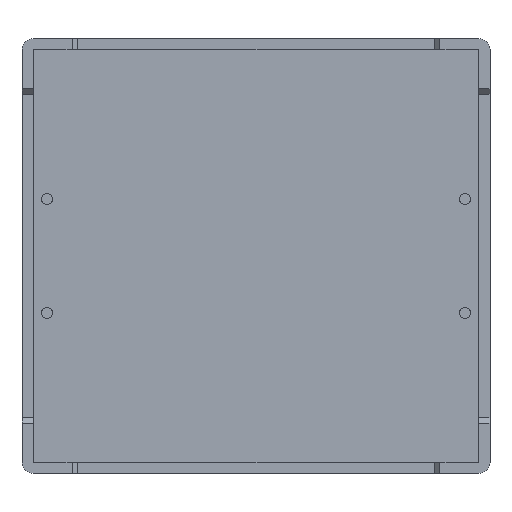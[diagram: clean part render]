
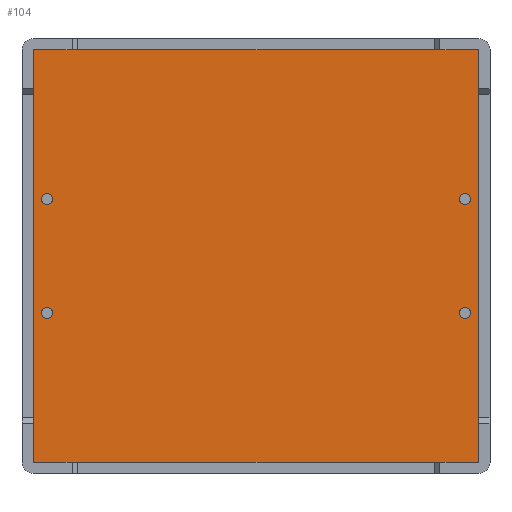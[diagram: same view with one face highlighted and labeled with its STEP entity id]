
A CAD part, front view. The second image highlights one B-rep face of the part: STEP entity #104.
In plain terms, the highlighted planar face has unit normal (0, -1, 0).
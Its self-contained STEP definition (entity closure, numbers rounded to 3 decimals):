
#3 = AXIS2_PLACEMENT_3D ( 'NONE', #2220, #2161, #1976 ) ;
#13 = ORIENTED_EDGE ( 'NONE', *, *, #305, .T. ) ;
#42 = VERTEX_POINT ( 'NONE', #3072 ) ;
#75 = EDGE_CURVE ( 'NONE', #2878, #2764, #550, .T. ) ;
#79 = EDGE_CURVE ( 'NONE', #3062, #4215, #587, .T. ) ;
#104 = ADVANCED_FACE ( 'NONE', ( #414, #384, #375, #464, #360 ), #1637, .T. ) ;
#110 = EDGE_CURVE ( 'NONE', #3020, #2753, #333, .T. ) ;
#134 = AXIS2_PLACEMENT_3D ( 'NONE', #358, #4489, #4467 ) ;
#172 = EDGE_CURVE ( 'NONE', #3124, #2938, #4348, .T. ) ;
#207 = EDGE_CURVE ( 'NONE', #3346, #4298, #3539, .T. ) ;
#229 = EDGE_CURVE ( 'NONE', #3323, #2331, #2954, .T. ) ;
#235 = CARTESIAN_POINT ( 'NONE',  ( -18.75, 1., 5.6 ) ) ;
#249 = EDGE_CURVE ( 'NONE', #4298, #3346, #2449, .T. ) ;
#262 = EDGE_CURVE ( 'NONE', #4491, #4380, #2226, .T. ) ;
#270 = EDGE_CURVE ( 'NONE', #4215, #3062, #2046, .T. ) ;
#285 = EDGE_CURVE ( 'NONE', #42, #4198, #1949, .T. ) ;
#286 = EDGE_CURVE ( 'NONE', #2331, #3124, #1907, .T. ) ;
#293 = EDGE_CURVE ( 'NONE', #2938, #3020, #1801, .T. ) ;
#295 = EDGE_CURVE ( 'NONE', #2753, #2878, #1747, .T. ) ;
#305 = EDGE_CURVE ( 'NONE', #2764, #3323, #1577, .T. ) ;
#333 = LINE ( 'NONE', #1606, #344 ) ;
#344 = VECTOR ( 'NONE', #1771, 1000. ) ;
#358 = CARTESIAN_POINT ( 'NONE',  ( 18.75, 1., 5.1 ) ) ;
#360 = FACE_OUTER_BOUND ( 'NONE', #1324, .T. ) ;
#375 = FACE_BOUND ( 'NONE', #1484, .T. ) ;
#384 = FACE_BOUND ( 'NONE', #1422, .T. ) ;
#393 = CARTESIAN_POINT ( 'NONE',  ( 18.75, 1., -5.1 ) ) ;
#414 = FACE_BOUND ( 'NONE', #1451, .T. ) ;
#464 = FACE_BOUND ( 'NONE', #1480, .T. ) ;
#471 = DIRECTION ( 'NONE',  ( 1., 0., 0. ) ) ;
#509 = CARTESIAN_POINT ( 'NONE',  ( 18.75, 1., 4.6 ) ) ;
#542 = DIRECTION ( 'NONE',  ( 0., 0., -1. ) ) ;
#546 = CARTESIAN_POINT ( 'NONE',  ( -20., 1., -18.5 ) ) ;
#550 = LINE ( 'NONE', #2085, #607 ) ;
#559 = CARTESIAN_POINT ( 'NONE',  ( 20., 1., 18.4 ) ) ;
#580 = AXIS2_PLACEMENT_3D ( 'NONE', #1589, #1614, #1368 ) ;
#587 = CIRCLE ( 'NONE', #3410, 0.5 ) ;
#607 = VECTOR ( 'NONE', #2080, 1000. ) ;
#609 = DIRECTION ( 'NONE',  ( 0., -1., 0. ) ) ;
#625 = CIRCLE ( 'NONE', #3192, 0.5 ) ;
#663 = CARTESIAN_POINT ( 'NONE',  ( 18.75, 1., 5.6 ) ) ;
#777 = CARTESIAN_POINT ( 'NONE',  ( -19.9, 1., -18.5 ) ) ;
#784 = DIRECTION ( 'NONE',  ( 0., 0., -1. ) ) ;
#796 = CARTESIAN_POINT ( 'NONE',  ( -18.75, 1., 5.1 ) ) ;
#879 = EDGE_CURVE ( 'NONE', #4198, #42, #4074, .T. ) ;
#918 = DIRECTION ( 'NONE',  ( 0., 0., -1. ) ) ;
#959 = AXIS2_PLACEMENT_3D ( 'NONE', #1639, #1621, #1590 ) ;
#1044 = CARTESIAN_POINT ( 'NONE',  ( -19.9, 1., 18.5 ) ) ;
#1203 = DIRECTION ( 'NONE',  ( 0., 0., -1. ) ) ;
#1226 = DIRECTION ( 'NONE',  ( 0., -1., 0. ) ) ;
#1245 = CARTESIAN_POINT ( 'NONE',  ( -18.75, 1., -5.1 ) ) ;
#1324 = EDGE_LOOP ( 'NONE', ( #4410, #4422, #4429, #4433, #4441, #4451, #4481, #13 ) ) ;
#1343 = AXIS2_PLACEMENT_3D ( 'NONE', #2946, #1500, #918 ) ;
#1368 = DIRECTION ( 'NONE',  ( 0., 0., -1. ) ) ;
#1402 = AXIS2_PLACEMENT_3D ( 'NONE', #3946, #3940, #3902 ) ;
#1422 = EDGE_LOOP ( 'NONE', ( #4320, #4334 ) ) ;
#1451 = EDGE_LOOP ( 'NONE', ( #4282, #4287 ) ) ;
#1480 = EDGE_LOOP ( 'NONE', ( #4391, #4404 ) ) ;
#1484 = EDGE_LOOP ( 'NONE', ( #4344, #4373 ) ) ;
#1500 = DIRECTION ( 'NONE',  ( 0., -1., 0. ) ) ;
#1577 = CIRCLE ( 'NONE', #3240, 0.1 ) ;
#1589 = CARTESIAN_POINT ( 'NONE',  ( -19.9, 1., -18.4 ) ) ;
#1590 = DIRECTION ( 'NONE',  ( 0., 0., -1. ) ) ;
#1606 = CARTESIAN_POINT ( 'NONE',  ( 20., 1., -18.5 ) ) ;
#1614 = DIRECTION ( 'NONE',  ( 0., -1., 0. ) ) ;
#1620 = DIRECTION ( 'NONE',  ( 0., 0., -1. ) ) ;
#1621 = DIRECTION ( 'NONE',  ( 0., -1., 0. ) ) ;
#1633 = CARTESIAN_POINT ( 'NONE',  ( 0., 1., 0. ) ) ;
#1637 = PLANE ( 'NONE',  #2212 ) ;
#1639 = CARTESIAN_POINT ( 'NONE',  ( 18.75, 1., -5.1 ) ) ;
#1722 = DIRECTION ( 'NONE',  ( 0., -1., 0. ) ) ;
#1747 = CIRCLE ( 'NONE', #2083, 0.1 ) ;
#1771 = DIRECTION ( 'NONE',  ( 0., 0., 1. ) ) ;
#1801 = CIRCLE ( 'NONE', #1402, 0.1 ) ;
#1907 = CIRCLE ( 'NONE', #580, 0.1 ) ;
#1949 = CIRCLE ( 'NONE', #3, 0.5 ) ;
#1976 = DIRECTION ( 'NONE',  ( 0., 0., -1. ) ) ;
#1987 = DIRECTION ( 'NONE',  ( 0., 0., -1. ) ) ;
#1995 = DIRECTION ( 'NONE',  ( 0., -1., 0. ) ) ;
#2005 = CARTESIAN_POINT ( 'NONE',  ( -18.75, 1., 5.1 ) ) ;
#2046 = CIRCLE ( 'NONE', #3098, 0.5 ) ;
#2080 = DIRECTION ( 'NONE',  ( -1., 0., 0. ) ) ;
#2083 = AXIS2_PLACEMENT_3D ( 'NONE', #3773, #3760, #3682 ) ;
#2085 = CARTESIAN_POINT ( 'NONE',  ( 20., 1., 18.5 ) ) ;
#2152 = CARTESIAN_POINT ( 'NONE',  ( 19.9, 1., 18.5 ) ) ;
#2161 = DIRECTION ( 'NONE',  ( 0., -1., 0. ) ) ;
#2167 = CARTESIAN_POINT ( 'NONE',  ( 19.9, 1., -18.5 ) ) ;
#2212 = AXIS2_PLACEMENT_3D ( 'NONE', #1633, #1722, #1620 ) ;
#2220 = CARTESIAN_POINT ( 'NONE',  ( -18.75, 1., -5.1 ) ) ;
#2226 = CIRCLE ( 'NONE', #959, 0.5 ) ;
#2280 = CARTESIAN_POINT ( 'NONE',  ( 18.75, 1., -4.6 ) ) ;
#2331 = VERTEX_POINT ( 'NONE', #3918 ) ;
#2449 = CIRCLE ( 'NONE', #134, 0.5 ) ;
#2721 = CARTESIAN_POINT ( 'NONE',  ( -20., 1., 18.4 ) ) ;
#2753 = VERTEX_POINT ( 'NONE', #559 ) ;
#2764 = VERTEX_POINT ( 'NONE', #1044 ) ;
#2878 = VERTEX_POINT ( 'NONE', #2152 ) ;
#2901 = CARTESIAN_POINT ( 'NONE',  ( 18.75, 1., -5.6 ) ) ;
#2937 = VECTOR ( 'NONE', #3342, 1000. ) ;
#2938 = VERTEX_POINT ( 'NONE', #2167 ) ;
#2946 = CARTESIAN_POINT ( 'NONE',  ( 18.75, 1., 5.1 ) ) ;
#2954 = LINE ( 'NONE', #3474, #2937 ) ;
#2962 = DIRECTION ( 'NONE',  ( 0., -1., 0. ) ) ;
#3020 = VERTEX_POINT ( 'NONE', #3804 ) ;
#3062 = VERTEX_POINT ( 'NONE', #3254 ) ;
#3072 = CARTESIAN_POINT ( 'NONE',  ( -18.75, 1., -4.6 ) ) ;
#3098 = AXIS2_PLACEMENT_3D ( 'NONE', #796, #609, #542 ) ;
#3124 = VERTEX_POINT ( 'NONE', #777 ) ;
#3147 = CARTESIAN_POINT ( 'NONE',  ( -18.75, 1., -5.6 ) ) ;
#3192 = AXIS2_PLACEMENT_3D ( 'NONE', #393, #2962, #784 ) ;
#3240 = AXIS2_PLACEMENT_3D ( 'NONE', #3447, #3412, #3383 ) ;
#3254 = CARTESIAN_POINT ( 'NONE',  ( -18.75, 1., 4.6 ) ) ;
#3323 = VERTEX_POINT ( 'NONE', #2721 ) ;
#3342 = DIRECTION ( 'NONE',  ( 0., 0., -1. ) ) ;
#3346 = VERTEX_POINT ( 'NONE', #509 ) ;
#3383 = DIRECTION ( 'NONE',  ( 0., 0., -1. ) ) ;
#3410 = AXIS2_PLACEMENT_3D ( 'NONE', #2005, #1995, #1987 ) ;
#3412 = DIRECTION ( 'NONE',  ( 0., -1., 0. ) ) ;
#3447 = CARTESIAN_POINT ( 'NONE',  ( -19.9, 1., 18.4 ) ) ;
#3474 = CARTESIAN_POINT ( 'NONE',  ( -20., 1., 18.5 ) ) ;
#3539 = CIRCLE ( 'NONE', #1343, 0.5 ) ;
#3682 = DIRECTION ( 'NONE',  ( 0., 0., -1. ) ) ;
#3760 = DIRECTION ( 'NONE',  ( 0., -1., 0. ) ) ;
#3773 = CARTESIAN_POINT ( 'NONE',  ( 19.9, 1., 18.4 ) ) ;
#3804 = CARTESIAN_POINT ( 'NONE',  ( 20., 1., -18.4 ) ) ;
#3902 = DIRECTION ( 'NONE',  ( 0., 0., -1. ) ) ;
#3918 = CARTESIAN_POINT ( 'NONE',  ( -20., 1., -18.4 ) ) ;
#3940 = DIRECTION ( 'NONE',  ( 0., -1., 0. ) ) ;
#3946 = CARTESIAN_POINT ( 'NONE',  ( 19.9, 1., -18.4 ) ) ;
#4013 = VECTOR ( 'NONE', #471, 1000. ) ;
#4074 = CIRCLE ( 'NONE', #4358, 0.5 ) ;
#4198 = VERTEX_POINT ( 'NONE', #3147 ) ;
#4215 = VERTEX_POINT ( 'NONE', #235 ) ;
#4282 = ORIENTED_EDGE ( 'NONE', *, *, #249, .F. ) ;
#4287 = ORIENTED_EDGE ( 'NONE', *, *, #207, .F. ) ;
#4298 = VERTEX_POINT ( 'NONE', #663 ) ;
#4320 = ORIENTED_EDGE ( 'NONE', *, *, #262, .F. ) ;
#4334 = ORIENTED_EDGE ( 'NONE', *, *, #4443, .F. ) ;
#4344 = ORIENTED_EDGE ( 'NONE', *, *, #270, .F. ) ;
#4348 = LINE ( 'NONE', #546, #4013 ) ;
#4358 = AXIS2_PLACEMENT_3D ( 'NONE', #1245, #1226, #1203 ) ;
#4373 = ORIENTED_EDGE ( 'NONE', *, *, #79, .F. ) ;
#4380 = VERTEX_POINT ( 'NONE', #2901 ) ;
#4391 = ORIENTED_EDGE ( 'NONE', *, *, #285, .F. ) ;
#4404 = ORIENTED_EDGE ( 'NONE', *, *, #879, .F. ) ;
#4410 = ORIENTED_EDGE ( 'NONE', *, *, #229, .T. ) ;
#4422 = ORIENTED_EDGE ( 'NONE', *, *, #286, .T. ) ;
#4429 = ORIENTED_EDGE ( 'NONE', *, *, #172, .T. ) ;
#4433 = ORIENTED_EDGE ( 'NONE', *, *, #293, .T. ) ;
#4441 = ORIENTED_EDGE ( 'NONE', *, *, #110, .T. ) ;
#4443 = EDGE_CURVE ( 'NONE', #4380, #4491, #625, .T. ) ;
#4451 = ORIENTED_EDGE ( 'NONE', *, *, #295, .T. ) ;
#4467 = DIRECTION ( 'NONE',  ( 0., 0., -1. ) ) ;
#4481 = ORIENTED_EDGE ( 'NONE', *, *, #75, .T. ) ;
#4489 = DIRECTION ( 'NONE',  ( 0., -1., 0. ) ) ;
#4491 = VERTEX_POINT ( 'NONE', #2280 ) ;
